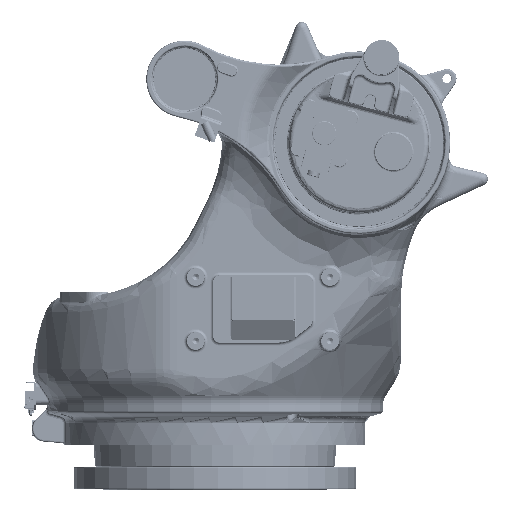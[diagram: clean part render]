
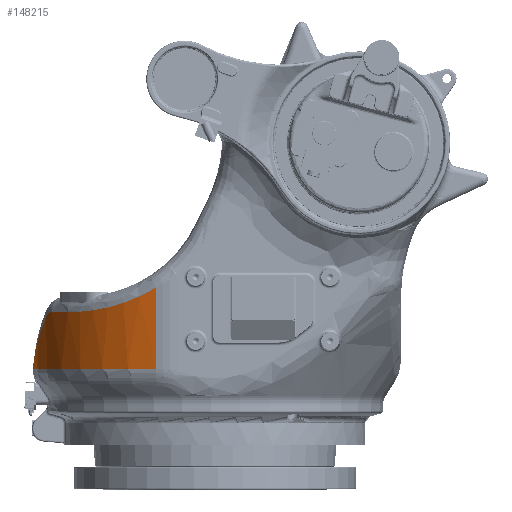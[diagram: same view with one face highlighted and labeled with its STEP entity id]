
A CAD part, front view. The second image highlights one B-rep face of the part: STEP entity #148215.
In plain terms, the highlighted cylindrical face has radius 570 mm (diameter 1140 mm), a partial arc.
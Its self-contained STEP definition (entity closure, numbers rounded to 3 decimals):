
#148193=AXIS2_PLACEMENT_3D('Cylinder Axis2P3D',#148190,#148191,#148192) ;
#148197=AXIS2_PLACEMENT_3D('Circle Axis2P3D',#148195,#148196,$) ;
#98642=CARTESIAN_POINT('Vertex',(-184.865,-539.189,866.732)) ;
#98905=CARTESIAN_POINT('Vertex',(-460.371,-336.093,790.)) ;
#98909=CARTESIAN_POINT('Control Point',(-184.865,-539.189,866.732)) ;
#98910=CARTESIAN_POINT('Control Point',(-193.658,-536.175,861.331)) ;
#98911=CARTESIAN_POINT('Control Point',(-202.556,-532.924,856.178)) ;
#98912=CARTESIAN_POINT('Control Point',(-211.527,-529.432,851.286)) ;
#98913=CARTESIAN_POINT('Control Point',(-232.45,-520.766,840.546)) ;
#98914=CARTESIAN_POINT('Control Point',(-253.469,-510.802,831.233)) ;
#98915=CARTESIAN_POINT('Control Point',(-265.406,-504.71,826.391)) ;
#98916=CARTESIAN_POINT('Control Point',(-282.685,-495.235,819.987)) ;
#98917=CARTESIAN_POINT('Control Point',(-299.752,-484.879,814.478)) ;
#98918=CARTESIAN_POINT('Control Point',(-305.075,-481.549,812.838)) ;
#98919=CARTESIAN_POINT('Control Point',(-327.078,-467.353,806.372)) ;
#98920=CARTESIAN_POINT('Control Point',(-348.493,-451.734,801.336)) ;
#98921=CARTESIAN_POINT('Control Point',(-364.266,-439.115,798.278)) ;
#98922=CARTESIAN_POINT('Control Point',(-384.854,-421.088,795.046)) ;
#98923=CARTESIAN_POINT('Control Point',(-404.262,-401.931,792.884)) ;
#98924=CARTESIAN_POINT('Control Point',(-409.274,-396.827,792.386)) ;
#98925=CARTESIAN_POINT('Control Point',(-423.235,-382.153,791.16)) ;
#98926=CARTESIAN_POINT('Control Point',(-436.502,-366.909,790.427)) ;
#98927=CARTESIAN_POINT('Control Point',(-444.771,-356.836,790.135)) ;
#98928=CARTESIAN_POINT('Control Point',(-452.723,-346.569,790.)) ;
#98929=CARTESIAN_POINT('Control Point',(-460.371,-336.093,790.)) ;
#99058=CARTESIAN_POINT('Vertex',(-510.441,-253.673,790.)) ;
#99062=CARTESIAN_POINT('Control Point',(-510.441,-253.673,790.)) ;
#99063=CARTESIAN_POINT('Control Point',(-507.696,-259.197,790.)) ;
#99064=CARTESIAN_POINT('Control Point',(-504.84,-264.757,790.)) ;
#99065=CARTESIAN_POINT('Control Point',(-501.885,-270.316,790.)) ;
#99066=CARTESIAN_POINT('Control Point',(-495.255,-282.386,790.)) ;
#99067=CARTESIAN_POINT('Control Point',(-488.224,-294.315,790.)) ;
#99068=CARTESIAN_POINT('Control Point',(-484.312,-300.71,790.)) ;
#99069=CARTESIAN_POINT('Control Point',(-477.309,-311.742,790.)) ;
#99070=CARTESIAN_POINT('Control Point',(-470.026,-322.524,790.)) ;
#99071=CARTESIAN_POINT('Control Point',(-466.861,-327.088,790.)) ;
#99072=CARTESIAN_POINT('Control Point',(-463.644,-331.61,790.)) ;
#99073=CARTESIAN_POINT('Control Point',(-460.371,-336.093,790.)) ;
#99298=CARTESIAN_POINT('Vertex',(-527.93,-214.919,775.355)) ;
#99302=CARTESIAN_POINT('Control Point',(-527.93,-214.919,775.355)) ;
#99303=CARTESIAN_POINT('Control Point',(-527.614,-215.694,776.063)) ;
#99304=CARTESIAN_POINT('Control Point',(-527.289,-216.488,776.752)) ;
#99305=CARTESIAN_POINT('Control Point',(-526.951,-217.311,777.432)) ;
#99306=CARTESIAN_POINT('Control Point',(-525.984,-219.648,779.265)) ;
#99307=CARTESIAN_POINT('Control Point',(-524.895,-222.239,781.024)) ;
#99308=CARTESIAN_POINT('Control Point',(-524.147,-224.,782.108)) ;
#99309=CARTESIAN_POINT('Control Point',(-522.591,-227.617,784.098)) ;
#99310=CARTESIAN_POINT('Control Point',(-520.846,-231.574,785.817)) ;
#99311=CARTESIAN_POINT('Control Point',(-519.961,-233.556,786.573)) ;
#99312=CARTESIAN_POINT('Control Point',(-517.677,-238.602,788.233)) ;
#99313=CARTESIAN_POINT('Control Point',(-515.191,-243.92,789.336)) ;
#99314=CARTESIAN_POINT('Control Point',(-513.651,-247.149,789.778)) ;
#99315=CARTESIAN_POINT('Control Point',(-512.064,-250.407,790.)) ;
#99316=CARTESIAN_POINT('Control Point',(-510.441,-253.673,790.)) ;
#99842=CARTESIAN_POINT('Vertex',(-568.735,-37.955,613.915)) ;
#99846=CARTESIAN_POINT('Control Point',(-527.93,-214.919,775.355)) ;
#99847=CARTESIAN_POINT('Control Point',(-528.462,-213.612,774.164)) ;
#99848=CARTESIAN_POINT('Control Point',(-528.983,-212.321,772.985)) ;
#99849=CARTESIAN_POINT('Control Point',(-529.502,-211.023,771.802)) ;
#99850=CARTESIAN_POINT('Control Point',(-530.611,-208.226,769.25)) ;
#99851=CARTESIAN_POINT('Control Point',(-531.811,-205.138,766.432)) ;
#99852=CARTESIAN_POINT('Control Point',(-532.447,-203.484,764.924)) ;
#99853=CARTESIAN_POINT('Control Point',(-533.94,-199.549,761.334)) ;
#99854=CARTESIAN_POINT('Control Point',(-535.5,-195.32,757.476)) ;
#99855=CARTESIAN_POINT('Control Point',(-536.388,-192.869,755.24)) ;
#99856=CARTESIAN_POINT('Control Point',(-538.497,-186.941,749.832)) ;
#99857=CARTESIAN_POINT('Control Point',(-540.581,-180.814,744.242)) ;
#99858=CARTESIAN_POINT('Control Point',(-541.766,-177.233,740.976)) ;
#99859=CARTESIAN_POINT('Control Point',(-543.892,-170.621,734.944)) ;
#99860=CARTESIAN_POINT('Control Point',(-545.929,-163.942,728.851)) ;
#99861=CARTESIAN_POINT('Control Point',(-546.832,-160.904,726.079)) ;
#99862=CARTESIAN_POINT('Control Point',(-550.209,-149.247,715.445)) ;
#99863=CARTESIAN_POINT('Control Point',(-553.247,-137.607,704.825)) ;
#99864=CARTESIAN_POINT('Control Point',(-555.313,-129.011,696.984)) ;
#99865=CARTESIAN_POINT('Control Point',(-558.421,-114.887,684.099)) ;
#99866=CARTESIAN_POINT('Control Point',(-561.071,-100.734,671.187)) ;
#99867=CARTESIAN_POINT('Control Point',(-562.039,-95.184,666.123)) ;
#99868=CARTESIAN_POINT('Control Point',(-563.997,-83.078,655.079)) ;
#99869=CARTESIAN_POINT('Control Point',(-565.63,-70.91,643.979)) ;
#99870=CARTESIAN_POINT('Control Point',(-566.418,-64.317,637.964)) ;
#99871=CARTESIAN_POINT('Control Point',(-567.385,-55.082,629.539)) ;
#99872=CARTESIAN_POINT('Control Point',(-568.163,-45.838,621.107)) ;
#99873=CARTESIAN_POINT('Control Point',(-568.369,-43.208,618.707)) ;
#99874=CARTESIAN_POINT('Control Point',(-568.56,-40.581,616.31)) ;
#99875=CARTESIAN_POINT('Control Point',(-568.735,-37.955,613.915)) ;
#148190=CARTESIAN_POINT('Axis2P3D Location',(0.,0.,669.39)) ;
#148195=CARTESIAN_POINT('Axis2P3D Location',(0.,0.,613.915)) ;
#148199=CARTESIAN_POINT('Vertex',(-184.865,-539.189,613.915)) ;
#148202=CARTESIAN_POINT('Line Origine',(-184.865,-539.189,803.16)) ;
#148191=DIRECTION('Axis2P3D Direction',(0.,0.,1.)) ;
#148192=DIRECTION('Axis2P3D XDirection',(-0.263,0.965,0.)) ;
#148196=DIRECTION('Axis2P3D Direction',(0.,0.,1.)) ;
#148203=DIRECTION('Vector Direction',(0.,0.,1.)) ;
#148204=VECTOR('Line Direction',#148203,1.) ;
#148208=ORIENTED_EDGE('',*,*,#148201,.T.) ;
#148209=ORIENTED_EDGE('',*,*,#148206,.F.) ;
#148210=ORIENTED_EDGE('',*,*,#98930,.F.) ;
#148211=ORIENTED_EDGE('',*,*,#99074,.F.) ;
#148212=ORIENTED_EDGE('',*,*,#99317,.F.) ;
#148213=ORIENTED_EDGE('',*,*,#99876,.F.) ;
#148215=ADVANCED_FACE('A2-001.1\\\X2\FF8AFF9FFF70FF82\X0\ \X2\FF8EFF9EFF83FF9EFF68FF70\X0\',(#148214),#148194,.T.) ;
#98908=B_SPLINE_CURVE_WITH_KNOTS('',5,(#98909,#98910,#98911,#98912,#98913,#98914,#98915,#98916,#98917,#98918,#98919,#98920,#98921,#98922,#98923,#98924,#98925,#98926,#98927,#98928,#98929),.UNSPECIFIED.,.F.,.U.,(6,3,3,3,3,3,6),(684.3,783.309,914.144,973.824,1162.182,1229.238,1352.224),.UNSPECIFIED.) ;
#99061=B_SPLINE_CURVE_WITH_KNOTS('',5,(#99062,#99063,#99064,#99065,#99066,#99067,#99068,#99069,#99070,#99071,#99072,#99073),.UNSPECIFIED.,.F.,.U.,(6,3,3,6),(819.16,879.554,950.709,1003.782),.UNSPECIFIED.) ;
#99301=B_SPLINE_CURVE_WITH_KNOTS('',5,(#99302,#99303,#99304,#99305,#99306,#99307,#99308,#99309,#99310,#99311,#99312,#99313,#99314,#99315,#99316),.UNSPECIFIED.,.F.,.U.,(6,3,3,3,6),(211.6,229.863,261.812,291.69,335.75),.UNSPECIFIED.) ;
#99845=B_SPLINE_CURVE_WITH_KNOTS('',5,(#99846,#99847,#99848,#99849,#99850,#99851,#99852,#99853,#99854,#99855,#99856,#99857,#99858,#99859,#99860,#99861,#99862,#99863,#99864,#99865,#99866,#99867,#99868,#99869,#99870,#99871,#99872,#99873,#99874,#99875),.UNSPECIFIED.,.F.,.U.,(6,3,3,3,3,3,3,3,3,6),(658.494,685.574,712.915,748.652,797.635,838.29,953.511,1027.665,1114.856,1149.523),.UNSPECIFIED.) ;
#148198=CIRCLE('generated circle',#148197,570.) ;
#148194=CYLINDRICAL_SURFACE('generated cylinder',#148193,570.) ;
#98930=EDGE_CURVE('',#98906,#98643,#98908,.F.) ;
#99074=EDGE_CURVE('',#99059,#98906,#99061,.T.) ;
#99317=EDGE_CURVE('',#99299,#99059,#99301,.T.) ;
#99876=EDGE_CURVE('',#99843,#99299,#99845,.F.) ;
#148201=EDGE_CURVE('',#99843,#148200,#148198,.T.) ;
#148206=EDGE_CURVE('',#98643,#148200,#148205,.F.) ;
#148207=EDGE_LOOP('',(#148208,#148209,#148210,#148211,#148212,#148213)) ;
#148214=FACE_OUTER_BOUND('',#148207,.T.) ;
#148205=LINE('Line',#148202,#148204) ;
#98643=VERTEX_POINT('',#98642) ;
#98906=VERTEX_POINT('',#98905) ;
#99059=VERTEX_POINT('',#99058) ;
#99299=VERTEX_POINT('',#99298) ;
#99843=VERTEX_POINT('',#99842) ;
#148200=VERTEX_POINT('',#148199) ;
